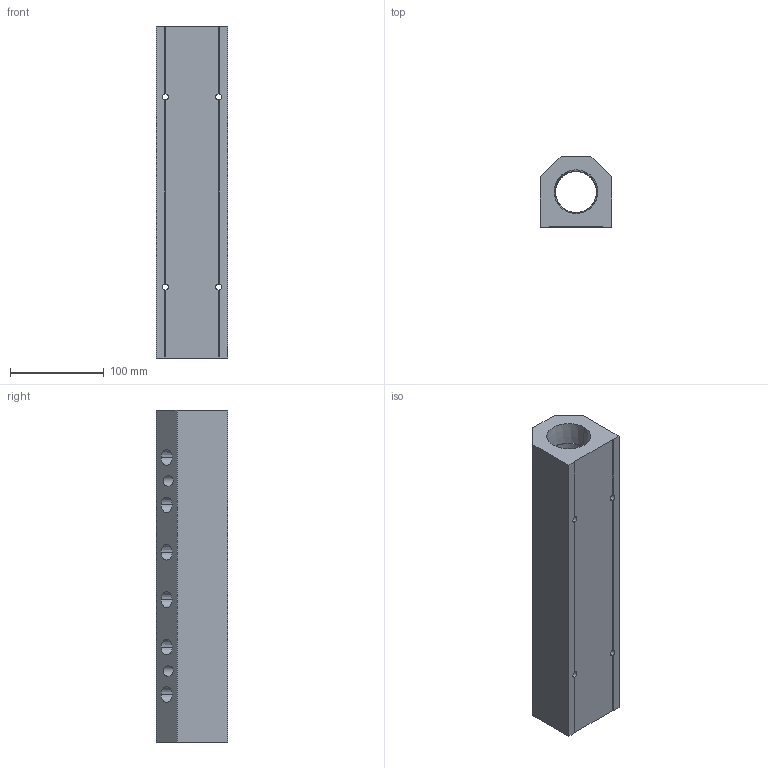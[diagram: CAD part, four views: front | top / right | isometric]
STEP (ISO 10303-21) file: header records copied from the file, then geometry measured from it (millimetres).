
FILE_DESCRIPTION (( 'STEP AP214' ), '1' );
FILE_NAME ('ALM6BCD-N6N24-355B.step', '2022-02-07T09:08:25', ( '' ), ( '' ), 'SwSTEP 2.0', 'SolidWorks 2020', '' );
FILE_SCHEMA (( 'AUTOMOTIVE_DESIGN' ));
Length unit declared in the file: millimetre
Products named in the file (1): ALM6BCD-N6N24-355B
Bounding box: 76.2 x 76.2 x 355 mm (x, y, z)
Volume: 1258166 mm3; surface area: 169231.9 mm2
Topology: 1 solids, 1 shells, 356 faces, 949 edges, 630 vertices
Faces by surface type: plane 209, bspline 89, cone 40, cylinder 18
Entity records: 21421 total; most frequent: CARTESIAN_POINT 9707, ORIENTED_EDGE 1898, DIRECTION 1327, EDGE_CURVE 949, LINE 647, VECTOR 647, VERTEX_POINT 630, EDGE_LOOP 437
